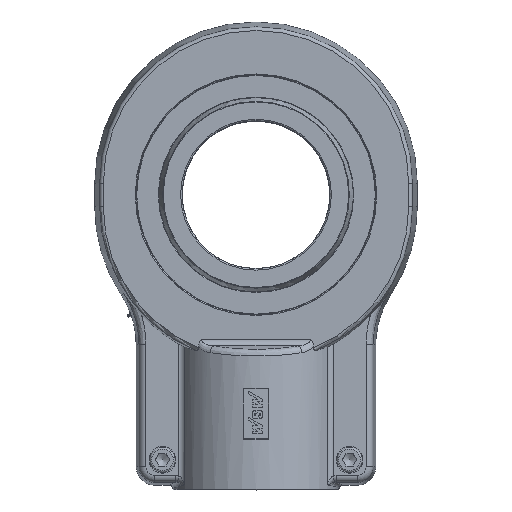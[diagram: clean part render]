
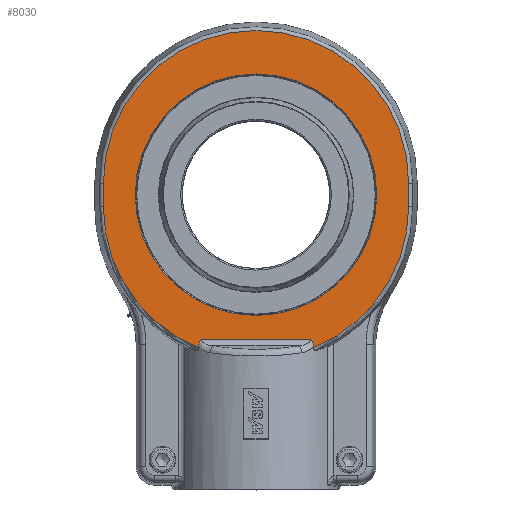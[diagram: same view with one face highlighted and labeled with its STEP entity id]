
A CAD part, top view. The second image highlights one B-rep face of the part: STEP entity #8030.
In plain terms, the highlighted planar face has unit normal (0, 0, 1).
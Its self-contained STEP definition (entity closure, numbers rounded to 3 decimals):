
#2653=CARTESIAN_POINT('',(124.499,-332.013,130.0));
#2654=VERTEX_POINT('',#2653);
#2670=CARTESIAN_POINT('',(124.499,-328.743,130.));
#2671=VERTEX_POINT('',#2670);
#2672=CARTESIAN_POINT('',(124.499,-328.743,130.));
#2673=DIRECTION('',(0.,-1.0,0.));
#2674=VECTOR('',#2673,3.27);
#2675=LINE('',#2672,#2674);
#2676=EDGE_CURVE('',#2671,#2654,#2675,.T.);
#2702=CARTESIAN_POINT('',(-124.499,-328.743,130.));
#2703=VERTEX_POINT('',#2702);
#2717=CARTESIAN_POINT('',(-124.499,-332.013,130.0));
#2718=VERTEX_POINT('',#2717);
#2719=CARTESIAN_POINT('',(-124.499,-332.013,130.0));
#2720=DIRECTION('',(0.,1.0,0.));
#2721=VECTOR('',#2720,3.27);
#2722=LINE('',#2719,#2721);
#2723=EDGE_CURVE('',#2718,#2703,#2722,.T.);
#3092=CARTESIAN_POINT('',(0.0,262.0,130.));
#3093=VERTEX_POINT('',#3092);
#3094=CARTESIAN_POINT('',(0.0,0.0,130.0));
#3095=DIRECTION('',(0.0,0.0,-1.0));
#3096=DIRECTION('',(0.0,1.0,0.0));
#3097=AXIS2_PLACEMENT_3D('',#3094,#3095,#3096);
#3098=CIRCLE('',#3097,262.);
#3099=EDGE_CURVE('',#3093,#3093,#3098,.T.);
#7835=CARTESIAN_POINT('',(-331.296,-25.,130.0));
#7836=VERTEX_POINT('',#7835);
#7854=CARTESIAN_POINT('',(0.0,-25.,130.0));
#7855=DIRECTION('',(0.0,0.0,-1.));
#7856=DIRECTION('',(-0.827,-0.562,0.0));
#7857=AXIS2_PLACEMENT_3D('',#7854,#7855,#7856);
#7858=CIRCLE('',#7857,331.296);
#7859=EDGE_CURVE('',#2718,#7836,#7858,.T.);
#7869=CARTESIAN_POINT('',(-331.296,25.,130.0));
#7870=VERTEX_POINT('',#7869);
#7885=CARTESIAN_POINT('',(-331.296,-25.,130.0));
#7886=DIRECTION('',(0.0,1.0,0.0));
#7887=VECTOR('',#7886,50.);
#7888=LINE('',#7885,#7887);
#7889=EDGE_CURVE('',#7836,#7870,#7888,.T.);
#7899=CARTESIAN_POINT('',(331.296,25.,130.0));
#7900=VERTEX_POINT('',#7899);
#7910=CARTESIAN_POINT('',(0.,25.,130.0));
#7911=DIRECTION('',(0.0,0.0,-1.0));
#7912=DIRECTION('',(0.0,1.0,0.0));
#7913=AXIS2_PLACEMENT_3D('',#7910,#7911,#7912);
#7914=CIRCLE('',#7913,331.296);
#7915=EDGE_CURVE('',#7870,#7900,#7914,.T.);
#7925=CARTESIAN_POINT('',(331.296,-25.0,130.0));
#7926=VERTEX_POINT('',#7925);
#7941=CARTESIAN_POINT('',(331.296,25.,130.0));
#7942=DIRECTION('',(0.0,-1.0,0.0));
#7943=VECTOR('',#7942,50.);
#7944=LINE('',#7941,#7943);
#7945=EDGE_CURVE('',#7900,#7926,#7944,.T.);
#7958=CARTESIAN_POINT('',(0.0,-25.,130.0));
#7959=DIRECTION('',(0.0,0.0,-1.0));
#7960=DIRECTION('',(0.827,-0.562,0.0));
#7961=AXIS2_PLACEMENT_3D('',#7958,#7959,#7960);
#7962=CIRCLE('',#7961,331.296);
#7963=EDGE_CURVE('',#7926,#2654,#7962,.T.);
#7968=CARTESIAN_POINT('',(0.,0.,130.0));
#7969=DIRECTION('',(0.0,0.0,1.0));
#7970=DIRECTION('',(1.0,0.0,0.0));
#7971=AXIS2_PLACEMENT_3D('',#7968,#7969,#7970);
#7972=PLANE('',#7971);
#7973=ORIENTED_EDGE('',*,*,#7963,.F.);
#7974=ORIENTED_EDGE('',*,*,#7945,.F.);
#7975=ORIENTED_EDGE('',*,*,#7915,.F.);
#7976=ORIENTED_EDGE('',*,*,#7889,.F.);
#7977=ORIENTED_EDGE('',*,*,#7859,.F.);
#7978=ORIENTED_EDGE('',*,*,#2723,.T.);
#7979=CARTESIAN_POINT('',(-118.322,-313.49,130.0));
#7980=VERTEX_POINT('',#7979);
#7981=CARTESIAN_POINT('',(-124.499,-328.743,130.0));
#7982=CARTESIAN_POINT('',(-124.499,-326.695,130.0));
#7983=CARTESIAN_POINT('',(-124.228,-324.648,130.0));
#7984=CARTESIAN_POINT('',(-123.681,-322.684,130.0));
#7985=CARTESIAN_POINT('',(-123.473,-321.939,130.0));
#7986=CARTESIAN_POINT('',(-123.226,-321.206,130.0));
#7987=CARTESIAN_POINT('',(-122.939,-320.487,130.0));
#7988=CARTESIAN_POINT('',(-122.769,-320.062,130.0));
#7989=CARTESIAN_POINT('',(-122.585,-319.642,130.0));
#7990=CARTESIAN_POINT('',(-122.388,-319.228,130.0));
#7991=CARTESIAN_POINT('',(-122.259,-318.958,130.0));
#7992=CARTESIAN_POINT('',(-122.12,-318.683,130.0));
#7993=CARTESIAN_POINT('',(-121.969,-318.399,130.0));
#7994=CARTESIAN_POINT('',(-121.174,-316.911,130.0));
#7995=CARTESIAN_POINT('',(-120.042,-315.214,130.0));
#7996=CARTESIAN_POINT('',(-118.339,-313.507,130.0));
#7997=CARTESIAN_POINT('',(-118.333,-313.502,130.0));
#7998=CARTESIAN_POINT('',(-118.327,-313.496,130.));
#7999=CARTESIAN_POINT('',(-118.322,-313.49,130.));
#8000=B_SPLINE_CURVE_WITH_KNOTS('',3,(#7981,#7982,#7983,#7984,#7985,#7986,#7987,#7988,#7989,#7990,#7991,#7992,#7993,#7994,#7995,#7996,#7997,#7998,#7999),.UNSPECIFIED.,.F.,.U.,(4,3,3,3,3,3,4),(0.0,0.614,0.847,0.985,1.075,1.546,1.548),.UNSPECIFIED.);
#8001=EDGE_CURVE('',#7980,#2703,#8000,.F.);
#8002=ORIENTED_EDGE('',*,*,#8001,.F.);
#8003=CARTESIAN_POINT('',(118.322,-313.49,130.0));
#8004=VERTEX_POINT('',#8003);
#8005=CARTESIAN_POINT('',(118.322,-313.49,130.0));
#8006=DIRECTION('',(-1.0,0.0,0.0));
#8007=VECTOR('',#8006,236.643);
#8008=LINE('',#8005,#8007);
#8009=EDGE_CURVE('',#8004,#7980,#8008,.T.);
#8010=ORIENTED_EDGE('',*,*,#8009,.F.);
#8011=CARTESIAN_POINT('',(118.322,-313.49,130.));
#8012=CARTESIAN_POINT('',(118.327,-313.496,130.));
#8013=CARTESIAN_POINT('',(118.333,-313.502,130.));
#8014=CARTESIAN_POINT('',(119.357,-314.528,130.));
#8015=CARTESIAN_POINT('',(120.26,-315.635,130.));
#8016=CARTESIAN_POINT('',(121.829,-318.039,130.));
#8017=CARTESIAN_POINT('',(122.482,-319.314,130.0));
#8018=CARTESIAN_POINT('',(124.008,-323.226,130.0));
#8019=CARTESIAN_POINT('',(124.499,-325.973,130.0));
#8020=CARTESIAN_POINT('',(124.499,-328.743,130.0));
#8021=B_SPLINE_CURVE_WITH_KNOTS('',3,(#8011,#8012,#8013,#8014,#8015,#8016,#8017,#8018,#8019,#8020),.UNSPECIFIED.,.F.,.U.,(4,2,2,2,4),(-0.002,0.0,0.433,0.863,1.696),.UNSPECIFIED.);
#8022=EDGE_CURVE('',#2671,#8004,#8021,.F.);
#8023=ORIENTED_EDGE('',*,*,#8022,.F.);
#8024=ORIENTED_EDGE('',*,*,#2676,.T.);
#8025=EDGE_LOOP('',(#7973,#7974,#7975,#7976,#7977,#7978,#8002,#8010,#8023,#8024));
#8026=FACE_OUTER_BOUND('',#8025,.T.);
#8027=ORIENTED_EDGE('',*,*,#3099,.T.);
#8028=EDGE_LOOP('',(#8027));
#8029=FACE_BOUND('',#8028,.T.);
#8030=ADVANCED_FACE('',(#8026,#8029),#7972,.T.);
